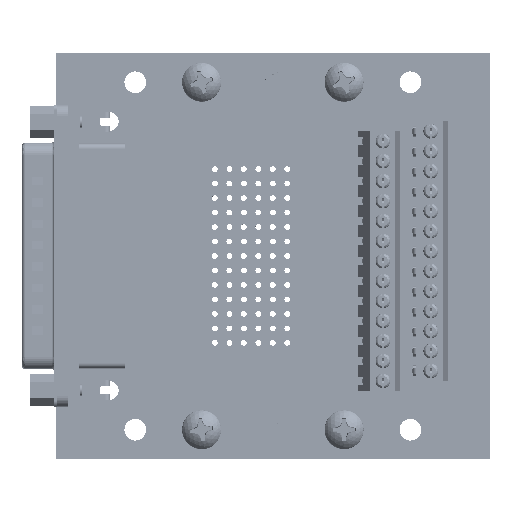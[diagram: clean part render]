
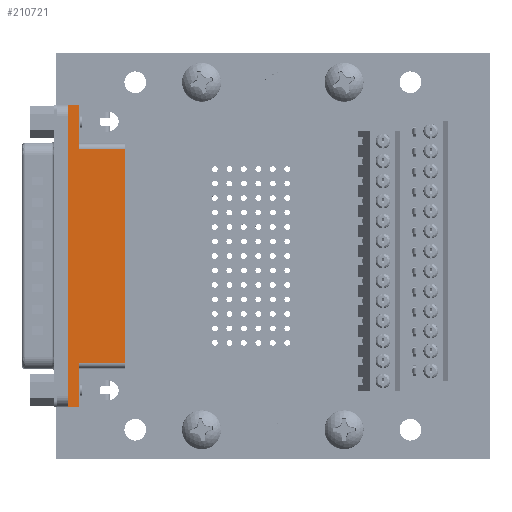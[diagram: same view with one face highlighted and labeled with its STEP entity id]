
A CAD part, top view. The second image highlights one B-rep face of the part: STEP entity #210721.
In plain terms, the highlighted planar face has unit normal (0, 0, 1) as drawn and (0, 1, 0) by its records, which use the part's own axes.
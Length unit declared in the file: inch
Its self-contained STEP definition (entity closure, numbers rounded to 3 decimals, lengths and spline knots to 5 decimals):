
#13398 = DIRECTION ( 'NONE',  ( 0., 1., 0. ) ) ;
#14710 = VERTEX_POINT ( 'NONE', #310394 ) ;
#36447 = DIRECTION ( 'NONE',  ( 0., 0., 1. ) ) ;
#39927 = CARTESIAN_POINT ( 'NONE',  ( 0.73819, 0.16142, 0.07874 ) ) ;
#48418 = VERTEX_POINT ( 'NONE', #439471 ) ;
#57468 = DIRECTION ( 'NONE',  ( 0., 0., 1. ) ) ;
#62469 = CARTESIAN_POINT ( 'NONE',  ( -0.73819, 0.16142, 0.15157 ) ) ;
#75812 = EDGE_CURVE ( 'NONE', #217237, #111122, #404577, .T. ) ;
#76090 = VECTOR ( 'NONE', #554728, 39.37008 ) ;
#78063 = DIRECTION ( 'NONE',  ( 1., 0., 0. ) ) ;
#82116 = VECTOR ( 'NONE', #88281, 39.37008 ) ;
#88281 = DIRECTION ( 'NONE',  ( 0., 0., -1. ) ) ;
#88620 = CARTESIAN_POINT ( 'NONE',  ( 0.73819, 0.16142, 0.15157 ) ) ;
#111122 = VERTEX_POINT ( 'NONE', #120617 ) ;
#112550 = EDGE_CURVE ( 'NONE', #209498, #405465, #154822, .T. ) ;
#115984 = DIRECTION ( 'NONE',  ( 1., 0., 0. ) ) ;
#118309 = VECTOR ( 'NONE', #57468, 39.37008 ) ;
#120617 = CARTESIAN_POINT ( 'NONE',  ( 1.04409, 0.16142, 0.15157 ) ) ;
#134479 = CARTESIAN_POINT ( 'NONE',  ( 1.04409, 0.16142, -0.09055 ) ) ;
#138839 = VECTOR ( 'NONE', #115984, 39.37008 ) ;
#143006 = ORIENTED_EDGE ( 'NONE', *, *, #536609, .F. ) ;
#147723 = AXIS2_PLACEMENT_3D ( 'NONE', #522513, #13398, #575407 ) ;
#154822 = LINE ( 'NONE', #337320, #118309 ) ;
#178064 = VECTOR ( 'NONE', #502146, 39.37008 ) ;
#180214 = ORIENTED_EDGE ( 'NONE', *, *, #255924, .F. ) ;
#202709 = EDGE_CURVE ( 'NONE', #48418, #14710, #360003, .T. ) ;
#207389 = LINE ( 'NONE', #39927, #178064 ) ;
#209498 = VERTEX_POINT ( 'NONE', #62469 ) ;
#209770 = EDGE_CURVE ( 'NONE', #48418, #209498, #449106, .T. ) ;
#210721 = ADVANCED_FACE ( 'NONE', ( #366940 ), #344227, .T. ) ;
#212865 = EDGE_CURVE ( 'NONE', #431824, #558261, #207389, .T. ) ;
#217237 = VERTEX_POINT ( 'NONE', #597462 ) ;
#229437 = CARTESIAN_POINT ( 'NONE',  ( -1.04409, 0.16142, -0.09055 ) ) ;
#255924 = EDGE_CURVE ( 'NONE', #431824, #405465, #538920, .T. ) ;
#268124 = CARTESIAN_POINT ( 'NONE',  ( 0.73819, 0.16142, 0.15157 ) ) ;
#301918 = CARTESIAN_POINT ( 'NONE',  ( 0., 0.16142, 0.07874 ) ) ;
#310394 = CARTESIAN_POINT ( 'NONE',  ( -1.04409, 0.16142, 0.07874 ) ) ;
#336380 = CARTESIAN_POINT ( 'NONE',  ( -0.73819, 0.16142, 0.47244 ) ) ;
#337320 = CARTESIAN_POINT ( 'NONE',  ( -0.73819, 0.16142, 0.07874 ) ) ;
#344227 = PLANE ( 'NONE',  #147723 ) ;
#353662 = EDGE_LOOP ( 'NONE', ( #486529, #513231, #143006, #517455, #470624, #518229, #180214, #406135 ) ) ;
#360003 = LINE ( 'NONE', #229437, #82116 ) ;
#366940 = FACE_OUTER_BOUND ( 'NONE', #353662, .T. ) ;
#367625 = VECTOR ( 'NONE', #36447, 39.37008 ) ;
#378047 = VECTOR ( 'NONE', #78063, 39.37008 ) ;
#404577 = LINE ( 'NONE', #134479, #367625 ) ;
#405465 = VERTEX_POINT ( 'NONE', #336380 ) ;
#406135 = ORIENTED_EDGE ( 'NONE', *, *, #212865, .T. ) ;
#412673 = CARTESIAN_POINT ( 'NONE',  ( 0.73819, 0.16142, 0.47244 ) ) ;
#429784 = DIRECTION ( 'NONE',  ( -1., 0., 0. ) ) ;
#431824 = VERTEX_POINT ( 'NONE', #412673 ) ;
#439471 = CARTESIAN_POINT ( 'NONE',  ( -1.04409, 0.16142, 0.15157 ) ) ;
#449106 = LINE ( 'NONE', #88620, #76090 ) ;
#470624 = ORIENTED_EDGE ( 'NONE', *, *, #209770, .T. ) ;
#486529 = ORIENTED_EDGE ( 'NONE', *, *, #580529, .T. ) ;
#502146 = DIRECTION ( 'NONE',  ( 0., 0., -1. ) ) ;
#504379 = LINE ( 'NONE', #301918, #138839 ) ;
#508982 = VECTOR ( 'NONE', #429784, 39.37008 ) ;
#513231 = ORIENTED_EDGE ( 'NONE', *, *, #75812, .F. ) ;
#517455 = ORIENTED_EDGE ( 'NONE', *, *, #202709, .F. ) ;
#518229 = ORIENTED_EDGE ( 'NONE', *, *, #112550, .T. ) ;
#522513 = CARTESIAN_POINT ( 'NONE',  ( 0.73819, 0.16142, 0.07874 ) ) ;
#536609 = EDGE_CURVE ( 'NONE', #14710, #217237, #504379, .T. ) ;
#538920 = LINE ( 'NONE', #568766, #508982 ) ;
#554728 = DIRECTION ( 'NONE',  ( 1., 0., 0. ) ) ;
#558261 = VERTEX_POINT ( 'NONE', #560570 ) ;
#560570 = CARTESIAN_POINT ( 'NONE',  ( 0.73819, 0.16142, 0.15157 ) ) ;
#568766 = CARTESIAN_POINT ( 'NONE',  ( 0., 0.16142, 0.47244 ) ) ;
#575407 = DIRECTION ( 'NONE',  ( 0., 0., 1. ) ) ;
#580529 = EDGE_CURVE ( 'NONE', #558261, #111122, #604606, .T. ) ;
#597462 = CARTESIAN_POINT ( 'NONE',  ( 1.04409, 0.16142, 0.07874 ) ) ;
#604606 = LINE ( 'NONE', #268124, #378047 ) ;
